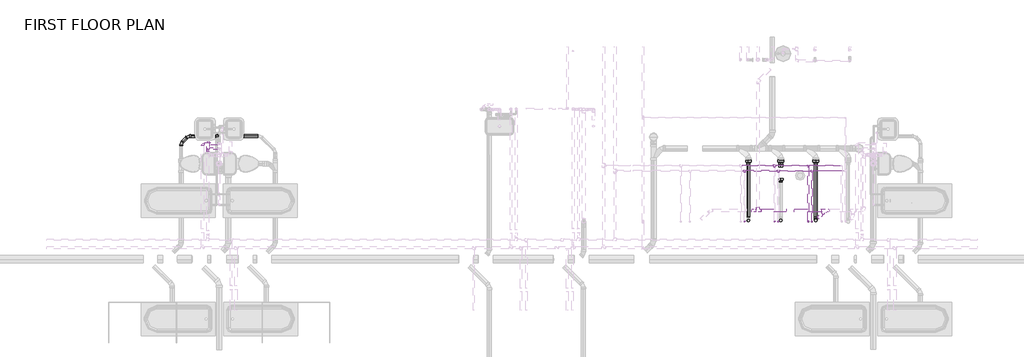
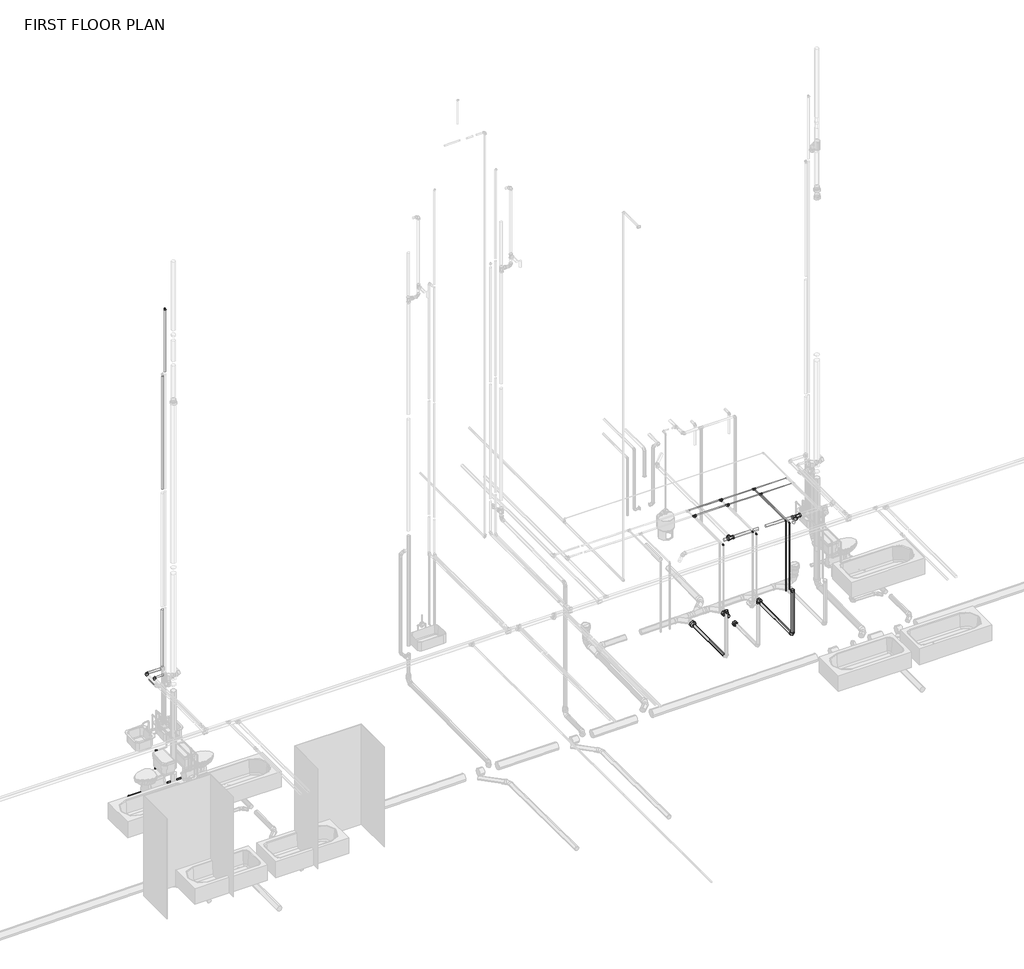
# One storey, part 14 of 29: 36 pipe fittings, 28 pipe segments.
"""IFC4 building model written with IfcOpenShell, lengths in millimetres."""

from ifc_helpers import new_model, si_unit, point, frame, frame_2d, origin, place, context, project, spatial, circle_curve, trimmed, segment, composite_curve, outline, extrude, transform, mapped, element, save
from components import bend_pvc_sch_40_dwv_standard_d8f6ba7d, bend_pvc_sch_40_dwv_standard_32fa4374, bend_pvc_sch_40_dwv_standard_d9c3dac7, bend_pvc_sch_40_dwv_standard_f4bd1dea, coupling_pvc_sch_40_dwv_standard_35c33311, pipe_elbow_copper_k_557be1fc, pipe_elbow_copper_k_764eecca, pipe_elbow_copper_k_aad62f2d, pipe_tee_copper_k_ee363fbf, pipe_tee_copper_k_feafe2f1, pipe_transition_copper_k_859ff352, pipe_transition_copper_k_b4f16853, pipe_transition_copper_k_b63fd5dd, pipe_transition_copper_k_6d118978, reducer_pvc_sch_40_dwv_standard_b23fa098, reducer_pvc_sch_40_dwv_standard_f8e5081b, reducer_pvc_sch_40_dwv_standard_f2b73945, reducer_pvc_sch_40_dwv_standard_75c2b4cb, reducer_pvc_sch_40_dwv_standard_82007f57, tee_sanitary_pvc_sch_40_dwv_standard_7b7ecc20, tee_sanitary_pvc_sch_40_dwv_standard_d4702521

model = new_model("IFC4")

# Units and contexts
model_context = context("Model", 3, world=origin())
ifc_project = project(units=[si_unit("LENGTHUNIT", "METRE", prefix="MILLI")], contexts=[model_context])

# Site, building, storey
site = spatial("IfcSite", under=ifc_project)
building = spatial("IfcBuilding", under=site)
storey = spatial("IfcBuildingStorey", under=building, Name="FIRST FLOOR PLAN", Elevation=0.0)

# Pipe fittings
placement = place(None, origin())
bend_pvc_sch_40_dwv_standard_shape = bend_pvc_sch_40_dwv_standard_d8f6ba7d(model_context)
element("IfcPipeFitting", 1, ObjectType="Bend - PVC - Sch 40 - DWV : Standard", at=placement, inside=storey, context=model_context, shape_type="MappedRepresentation", body=[
    mapped(bend_pvc_sch_40_dwv_standard_shape, transform((2072.2638539, 8305.4862894, -510.828984), x_axis=(-0.007495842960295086, 0.004298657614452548, -0.9999626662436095), y_axis=(0.9999719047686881, 7.707464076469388e-05, -0.007495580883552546), z_axis=(4.4850827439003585e-05, -0.9999907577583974, -0.0042991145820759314))),
])
bend_pvc_sch_40_dwv_standard_2_shape = bend_pvc_sch_40_dwv_standard_32fa4374(model_context)
element("IfcPipeFitting", 2, ObjectType="Bend - PVC - Sch 40 - DWV : Standard", at=placement, inside=storey, context=model_context, shape_type="MappedRepresentation", body=[
    mapped(bend_pvc_sch_40_dwv_standard_2_shape, transform((15631.4487178, 6391.7502043, -369.695797), x_axis=(-4.307089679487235e-05, 4.2748559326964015e-05, -0.9999999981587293), y_axis=(2.689705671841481e-08, 0.99999999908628, 4.2748558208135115e-05), z_axis=(0.9999999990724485, -2.5055837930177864e-08, -4.307089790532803e-05))),
])
bend_pvc_sch_40_dwv_standard_3_shape = bend_pvc_sch_40_dwv_standard_d9c3dac7(model_context)
element("IfcPipeFitting", 3, ObjectType="Bend - PVC - Sch 40 - DWV : Standard", at=placement, inside=storey, context=model_context, shape_type="MappedRepresentation", body=[
    mapped(bend_pvc_sch_40_dwv_standard_3_shape, transform((1250.8963953, 8146.4643638, -521.9379167), x_axis=(-0.7069835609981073, -0.7069835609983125, -0.018667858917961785), y_axis=(0.7070492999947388, -0.7071532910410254, 0.0039383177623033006), z_axis=(-0.015985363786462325, -0.010414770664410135, 0.9998179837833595))),
])
bend_pvc_sch_40_dwv_standard_4_shape = bend_pvc_sch_40_dwv_standard_f4bd1dea(model_context)
element("IfcPipeFitting", 4, ObjectType="Bend - PVC - Sch 40 - DWV : Standard", at=placement, inside=storey, context=model_context, shape_type="MappedRepresentation", body=[
    mapped(bend_pvc_sch_40_dwv_standard_4_shape, transform((1409.9183209, 8305.4862894, -517.7389522), x_axis=(-0.9999455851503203, 0.0, -0.01043200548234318), y_axis=(0.00016659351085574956, -0.9998724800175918, -0.015968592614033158), z_axis=(-0.010430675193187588, -0.015969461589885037, 0.9998180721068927))),
])
coupling_pvc_sch_40_dwv_standard_shape = coupling_pvc_sch_40_dwv_standard_35c33311(model_context)
element("IfcPipeFitting", 5, ObjectType="Coupling - PVC - Sch 40 - DWV : Standard", at=placement, inside=storey, context=model_context, shape_type="MappedRepresentation", body=[
    mapped(coupling_pvc_sch_40_dwv_standard_shape, transform((14840.7074693, 6391.7681529, 709.0818814), x_axis=(-3.7724282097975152e-06, -4.720714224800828e-05, 0.9999999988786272), y_axis=(0.9999999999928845, -2.7131483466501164e-09, 3.7724280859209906e-06), z_axis=(2.535062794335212e-09, 0.999999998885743, 4.7207142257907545e-05))),
])
element("IfcPipeFitting", 6, ObjectType="Coupling - PVC - Sch 40 - DWV : Standard", at=placement, inside=storey, context=model_context, shape_type="MappedRepresentation", body=[
    mapped(coupling_pvc_sch_40_dwv_standard_shape, transform((15631.4672769, 6391.6983924, 709.0856937), x_axis=(-3.795116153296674e-06, -4.7291518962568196e-05, 0.9999999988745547), y_axis=(0.9999999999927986, -2.714284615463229e-09, 3.7951160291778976e-06), z_axis=(2.5348078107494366e-09, 0.9999999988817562, 4.729151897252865e-05))),
])
pipe_elbow_copper_k_shape = pipe_elbow_copper_k_557be1fc(model_context)
element("IfcPipeFitting", 7, ObjectType="Pipe Elbow : Copper- K", at=placement, inside=storey, context=model_context, shape_type="MappedRepresentation", body=[
    mapped(pipe_elbow_copper_k_shape, transform((1858.4146104, 8021.1606631, 2413.0), x_axis=(-1.0, 0.0, 0.0), y_axis=(0.0, -1.0, 0.0), z_axis=(0.0, 0.0, 1.0))),
])
pipe_elbow_copper_k_2_shape = pipe_elbow_copper_k_764eecca(model_context)
element("IfcPipeFitting", 8, ObjectType="Pipe Elbow : Copper- K", at=placement, inside=storey, context=model_context, shape_type="MappedRepresentation", body=[
    mapped(pipe_elbow_copper_k_2_shape, transform((1739.2624243, 8129.4757881, 2490.6882812), x_axis=(-1.0, 0.0, 0.0), y_axis=(0.0, -1.0, 0.0), z_axis=(0.0, 0.0, 1.0))),
])
pipe_elbow_copper_k_3_shape = pipe_elbow_copper_k_aad62f2d(model_context)
element("IfcPipeFitting", 9, ObjectType="Pipe Elbow : Copper- K", at=placement, inside=storey, context=model_context, shape_type="MappedRepresentation", body=[
    mapped(pipe_elbow_copper_k_3_shape, transform((14698.9084875, 6363.4137881, 2490.6882812), x_axis=(0.0, 0.0, 1.0), y_axis=(0.0, 1.0, 0.0), z_axis=(-1.0, 0.0, 0.0))),
])
element("IfcPipeFitting", 10, ObjectType="Pipe Elbow : Copper- K", at=placement, inside=storey, context=model_context, shape_type="MappedRepresentation", body=[
    mapped(pipe_elbow_copper_k_3_shape, transform((15461.1084875, 6363.4137881, 2490.6882812), x_axis=(0.0, 0.0, 1.0), y_axis=(0.0, 1.0, 0.0), z_axis=(-1.0, 0.0, 0.0))),
])
element("IfcPipeFitting", 11, ObjectType="Pipe Elbow : Copper- K", at=placement, inside=storey, context=model_context, shape_type="MappedRepresentation", body=[
    mapped(pipe_elbow_copper_k_3_shape, transform((14020.3084875, 6363.4137881, 2413.0), x_axis=(0.0, 0.0, 1.0), y_axis=(0.0, 1.0, 0.0), z_axis=(-1.0, 0.0, 0.0))),
])
element("IfcPipeFitting", 12, ObjectType="Pipe Elbow : Copper- K", at=placement, inside=storey, context=model_context, shape_type="MappedRepresentation", body=[
    mapped(pipe_elbow_copper_k_3_shape, transform((15544.7084875, 6363.4137881, 2413.0), x_axis=(0.0, 0.0, 1.0), y_axis=(0.0, 1.0, 0.0), z_axis=(-1.0, 0.0, 0.0))),
])
element("IfcPipeFitting", 13, ObjectType="Pipe Elbow : Copper- K", at=placement, inside=storey, context=model_context, shape_type="MappedRepresentation", body=[
    mapped(pipe_elbow_copper_k_3_shape, transform((14782.5084875, 6363.4137881, 2413.0), x_axis=(0.0, 0.0, 1.0), y_axis=(0.0, 1.0, 0.0), z_axis=(-1.0, 0.0, 0.0))),
])
element("IfcPipeFitting", 14, ObjectType="Pipe Elbow : Copper- K", at=placement, inside=storey, context=model_context, shape_type="MappedRepresentation", body=[
    mapped(pipe_elbow_copper_k_3_shape, transform((2118.3084875, 8021.1606631, 11328.4), x_axis=(0.0, 0.0, 1.0), y_axis=(-1.0, 0.0, 0.0), z_axis=(0.0, -1.0, 0.0))),
])
pipe_tee_copper_k_shape = pipe_tee_copper_k_ee363fbf(model_context)
element("IfcPipeFitting", 15, ObjectType="Pipe Tee : Copper- K", at=placement, inside=storey, context=model_context, shape_type="MappedRepresentation", body=[
    mapped(pipe_tee_copper_k_shape, transform((15461.1084875, 7639.882496, 2490.6882812), x_axis=(1.0, 0.0, 0.0), y_axis=(0.0, 1.0, 0.0), z_axis=(0.0, 0.0, 1.0))),
])
element("IfcPipeFitting", 16, ObjectType="Pipe Tee : Copper- K", at=placement, inside=storey, context=model_context, shape_type="MappedRepresentation", body=[
    mapped(pipe_tee_copper_k_shape, transform((15544.7084875, 7519.1499538, 2413.0), x_axis=(1.0, 0.0, 0.0), y_axis=(0.0, 1.0, 0.0), z_axis=(0.0, 0.0, 1.0))),
])
pipe_tee_copper_k_2_shape = pipe_tee_copper_k_feafe2f1(model_context)
element("IfcPipeFitting", 17, ObjectType="Pipe Tee : Copper- K", at=placement, inside=storey, context=model_context, shape_type="MappedRepresentation", body=[
    mapped(pipe_tee_copper_k_2_shape, transform((14698.9084875, 7639.882496, 2490.6882812), x_axis=(1.0, 0.0, 0.0), y_axis=(0.0, 1.0, 0.0), z_axis=(0.0, 0.0, 1.0))),
])
element("IfcPipeFitting", 18, ObjectType="Pipe Tee : Copper- K", at=placement, inside=storey, context=model_context, shape_type="MappedRepresentation", body=[
    mapped(pipe_tee_copper_k_2_shape, transform((14020.3084875, 7519.1499538, 2413.0), x_axis=(1.0, 0.0, 0.0), y_axis=(0.0, 1.0, 0.0), z_axis=(0.0, 0.0, 1.0))),
])
element("IfcPipeFitting", 19, ObjectType="Pipe Tee : Copper- K", at=placement, inside=storey, context=model_context, shape_type="MappedRepresentation", body=[
    mapped(pipe_tee_copper_k_2_shape, transform((14782.5084875, 7519.1499538, 2413.0), x_axis=(1.0, 0.0, 0.0), y_axis=(0.0, 1.0, 0.0), z_axis=(0.0, 0.0, 1.0))),
])
pipe_transition_copper_k_shape = pipe_transition_copper_k_859ff352(model_context)
element("IfcPipeFitting", 20, ObjectType="Pipe Transition : Copper- K", at=placement, inside=storey, context=model_context, shape_type="MappedRepresentation", body=[
    mapped(pipe_transition_copper_k_shape, transform((15488.0959875, 7639.882496, 2490.6882812), x_axis=(1.0, 0.0, 0.0), y_axis=(0.0, 1.0, 0.0), z_axis=(0.0, 0.0, 1.0))),
])
element("IfcPipeFitting", 21, ObjectType="Pipe Transition : Copper- K", at=placement, inside=storey, context=model_context, shape_type="MappedRepresentation", body=[
    mapped(pipe_transition_copper_k_shape, transform((15461.1084875, 7612.894996, 2490.6882812), x_axis=(0.0, -1.0, 0.0), y_axis=(1.0, 0.0, 0.0), z_axis=(0.0, 0.0, 1.0))),
])
element("IfcPipeFitting", 22, ObjectType="Pipe Transition : Copper- K", at=placement, inside=storey, context=model_context, shape_type="MappedRepresentation", body=[
    mapped(pipe_transition_copper_k_shape, transform((15571.6959875, 7519.1499538, 2413.0), x_axis=(1.0, 0.0, 0.0), y_axis=(0.0, 1.0, 0.0), z_axis=(0.0, 0.0, 1.0))),
])
element("IfcPipeFitting", 23, ObjectType="Pipe Transition : Copper- K", at=placement, inside=storey, context=model_context, shape_type="MappedRepresentation", body=[
    mapped(pipe_transition_copper_k_shape, transform((15544.7084875, 7492.1624538, 2413.0), x_axis=(0.0, -1.0, 0.0), y_axis=(1.0, 0.0, 0.0), z_axis=(0.0, 0.0, 1.0))),
])
pipe_transition_copper_k_2_shape = pipe_transition_copper_k_b4f16853(model_context)
element("IfcPipeFitting", 24, ObjectType="Pipe Transition : Copper- K", at=placement, inside=storey, context=model_context, shape_type="MappedRepresentation", body=[
    mapped(pipe_transition_copper_k_2_shape, transform((14729.0709875, 7639.882496, 2490.6882812), x_axis=(1.0, 0.0, 0.0), y_axis=(0.0, 1.0, 0.0), z_axis=(0.0, 0.0, 1.0))),
])
element("IfcPipeFitting", 25, ObjectType="Pipe Transition : Copper- K", at=placement, inside=storey, context=model_context, shape_type="MappedRepresentation", body=[
    mapped(pipe_transition_copper_k_2_shape, transform((14812.6709875, 7519.1499538, 2413.0), x_axis=(1.0, 0.0, 0.0), y_axis=(0.0, 1.0, 0.0), z_axis=(0.0, 0.0, 1.0))),
])
pipe_transition_copper_k_3_shape = pipe_transition_copper_k_b63fd5dd(model_context)
element("IfcPipeFitting", 26, ObjectType="Pipe Transition : Copper- K", at=placement, inside=storey, context=model_context, shape_type="MappedRepresentation", body=[
    mapped(pipe_transition_copper_k_3_shape, transform((14698.9084875, 7609.719996, 2490.6882812), x_axis=(0.0, -1.0, 0.0), y_axis=(1.0, 0.0, 0.0), z_axis=(0.0, 0.0, 1.0))),
])
element("IfcPipeFitting", 27, ObjectType="Pipe Transition : Copper- K", at=placement, inside=storey, context=model_context, shape_type="MappedRepresentation", body=[
    mapped(pipe_transition_copper_k_3_shape, transform((14020.3084875, 7488.9874538, 2413.0), x_axis=(0.0, -1.0, 0.0), y_axis=(1.0, 0.0, 0.0), z_axis=(0.0, 0.0, 1.0))),
])
element("IfcPipeFitting", 28, ObjectType="Pipe Transition : Copper- K", at=placement, inside=storey, context=model_context, shape_type="MappedRepresentation", body=[
    mapped(pipe_transition_copper_k_3_shape, transform((14782.5084875, 7488.9874538, 2413.0), x_axis=(0.0, -1.0, 0.0), y_axis=(1.0, 0.0, 0.0), z_axis=(0.0, 0.0, 1.0))),
])
pipe_transition_copper_k_4_shape = pipe_transition_copper_k_6d118978(model_context)
element("IfcPipeFitting", 29, ObjectType="Pipe Transition : Copper- K", at=placement, inside=storey, context=model_context, shape_type="MappedRepresentation", body=[
    mapped(pipe_transition_copper_k_4_shape, transform((2118.3084875, 8021.1606631, 11300.61875), x_axis=(0.0, 0.0, 1.0), y_axis=(0.0, -1.0, 0.0), z_axis=(1.0, 0.0, 0.0))),
])
reducer_pvc_sch_40_dwv_standard_shape = reducer_pvc_sch_40_dwv_standard_b23fa098(model_context)
element("IfcPipeFitting", 30, ObjectType="Reducer - PVC - Sch 40 - DWV : Standard", at=placement, inside=storey, context=model_context, shape_type="MappedRepresentation", body=[
    mapped(reducer_pvc_sch_40_dwv_standard_shape, transform((14106.8736698, 6391.7698624, 709.0782825), x_axis=(-3.7444247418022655e-06, -4.717245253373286e-05, 0.9999999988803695), y_axis=(0.9999999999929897, -2.711745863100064e-09, 3.7444246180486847e-06), z_axis=(2.535112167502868e-09, 0.9999999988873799, 4.717245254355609e-05))),
])
reducer_pvc_sch_40_dwv_standard_2_shape = reducer_pvc_sch_40_dwv_standard_f8e5081b(model_context)
element("IfcPipeFitting", 31, ObjectType="Reducer - PVC - Sch 40 - DWV : Standard", at=placement, inside=storey, context=model_context, shape_type="MappedRepresentation", body=[
    mapped(reducer_pvc_sch_40_dwv_standard_2_shape, transform((14840.6889125, 7344.222429, -377.8393737), x_axis=(0.0, -0.9999987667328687, 0.001570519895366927), y_axis=(0.008217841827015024, -0.001570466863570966, -0.9999649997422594), z_axis=(0.9999662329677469, 1.290628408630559e-05, 0.008217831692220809))),
])
reducer_pvc_sch_40_dwv_standard_3_shape = reducer_pvc_sch_40_dwv_standard_f2b73945(model_context)
element("IfcPipeFitting", 32, ObjectType="Reducer - PVC - Sch 40 - DWV : Standard", at=placement, inside=storey, context=model_context, shape_type="MappedRepresentation", body=[
    mapped(reducer_pvc_sch_40_dwv_standard_3_shape, transform((14840.6887347, 7764.8251101, -378.4920541), x_axis=(-1.1372606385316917e-06, -0.999998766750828, 0.0015705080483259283), y_axis=(0.9999457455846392, 1.522218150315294e-05, 0.010416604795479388), z_axis=(-0.010416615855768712, 0.001570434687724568, 0.9999445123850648))),
])
reducer_pvc_sch_40_dwv_standard_4_shape = reducer_pvc_sch_40_dwv_standard_75c2b4cb(model_context)
element("IfcPipeFitting", 33, ObjectType="Reducer - PVC - Sch 40 - DWV : Standard", at=placement, inside=storey, context=model_context, shape_type="MappedRepresentation", body=[
    mapped(reducer_pvc_sch_40_dwv_standard_4_shape, transform((15631.4487356, 7764.8279102, -370.4966945), x_axis=(3.072335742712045e-07, -0.9999998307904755, 0.0005817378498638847), y_axis=(0.010416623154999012, -0.0005817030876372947, -0.9999455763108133), z_axis=(0.9999457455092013, 6.366960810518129e-06, 0.010416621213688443))),
])
reducer_pvc_sch_40_dwv_standard_5_shape = reducer_pvc_sch_40_dwv_standard_82007f57(model_context)
element("IfcPipeFitting", 34, ObjectType="Reducer - PVC - Sch 40 - DWV : Standard", at=placement, inside=storey, context=model_context, shape_type="MappedRepresentation", body=[
    mapped(reducer_pvc_sch_40_dwv_standard_5_shape, transform((14106.8550448, 7764.8223138, -386.1289152), x_axis=(-1.1796395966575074e-06, -0.9999987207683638, 0.0015995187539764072), y_axis=(0.010416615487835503, -0.001599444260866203, -0.9999444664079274), z_axis=(0.9999457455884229, 1.548199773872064e-05, 0.010416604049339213))),
])
tee_sanitary_pvc_sch_40_dwv_standard_shape = tee_sanitary_pvc_sch_40_dwv_standard_7b7ecc20(model_context)
element("IfcPipeFitting", 35, ObjectType="Tee Sanitary - PVC - Sch 40 - DWV : Standard", at=placement, inside=storey, context=model_context, shape_type="MappedRepresentation", body=[
    mapped(tee_sanitary_pvc_sch_40_dwv_standard_shape, transform((14321.5528476, 6617.4137881, 2311.4), x_axis=(-1.0, 0.0, 0.0), y_axis=(0.0, -1.0, 0.0), z_axis=(0.0, 0.0, 1.0))),
])
tee_sanitary_pvc_sch_40_dwv_standard_2_shape = tee_sanitary_pvc_sch_40_dwv_standard_d4702521(model_context)
element("IfcPipeFitting", 36, ObjectType="Tee Sanitary - PVC - Sch 40 - DWV : Standard", at=placement, inside=storey, context=model_context, shape_type="MappedRepresentation", body=[
    mapped(tee_sanitary_pvc_sch_40_dwv_standard_2_shape, transform((15857.3100774, 6617.4137881, 2311.3999994), x_axis=(-1.0, 0.0, 0.0), y_axis=(0.0, 1.0, 0.0), z_axis=(0.0, 0.0, -1.0))),
])

# Pipe segments
element("IfcPipeSegment", 37, ObjectType="Cast Iron - VENT", at=placement, inside=storey, context=model_context, shape_type="SweptSolid", body=[
    extrude(outline(composite_curve([segment(trimmed(circle_curve(frame_2d((0.0, 30.1625)), 30.1625), [point((30.1624999, 30.1625))], [point((0.0, 0.0))], False, "CARTESIAN"), True, "CONTINUOUS"), segment(trimmed(circle_curve(frame_2d((0.0, 30.1625)), 30.1625), [point((0.0, 0.0))], [point((-30.1625, 30.1625))], False, "CARTESIAN"), True, "CONTINUOUS"), segment(trimmed(circle_curve(frame_2d((0.0, 30.1625)), 30.1625), [point((-30.1625, 30.1625))], [point((0.0, 60.325))], False, "CARTESIAN"), True, "CONTINUOUS"), segment(trimmed(circle_curve(frame_2d((0.0, 30.1625)), 30.1625), [point((0.0, 60.325))], [point((30.1624999, 30.1625))], False, "CARTESIAN"), True, "CONTINUOUS")], self_intersect=False)), frame((15686.5286675, 6446.6323781, 2341.5624994), z_axis=(0.7071067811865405, 0.7071067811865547, 0.0), x_axis=(0.7071067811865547, -0.7071067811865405, 0.0)), (0.0, 0.0, 1.0), 139.6266821),
])
element("IfcPipeSegment", 38, ObjectType="Cast Iron - VENT", at=placement, inside=storey, context=model_context, shape_type="SweptSolid", body=[
    extrude(outline(composite_curve([segment(trimmed(circle_curve(frame_2d((6617.4137881, 2311.4)), 30.1625), [point((6647.5762881, 2311.4))], [point((6617.4137881, 2281.2375))], False, "CARTESIAN"), True, "CONTINUOUS"), segment(trimmed(circle_curve(frame_2d((6617.4137881, 2311.4)), 30.1625), [point((6617.4137881, 2281.2375))], [point((6587.2512881, 2311.4))], False, "CARTESIAN"), True, "CONTINUOUS"), segment(trimmed(circle_curve(frame_2d((6617.4137881, 2311.4)), 30.1625), [point((6587.2512881, 2311.4))], [point((6617.4137881, 2341.5625))], False, "CARTESIAN"), True, "CONTINUOUS"), segment(trimmed(circle_curve(frame_2d((6617.4137881, 2311.4)), 30.1625), [point((6617.4137881, 2341.5625))], [point((6647.5762881, 2311.4))], False, "CARTESIAN"), True, "CONTINUOUS")], self_intersect=False)), frame((14184.7222928, 0.0, 0.0), z_axis=(1.0, 0.0, 0.0), x_axis=(0.0, 1.0, 0.0)), (0.0, 0.0, 1.0), 82.8555549),
])
element("IfcPipeSegment", 39, ObjectType="Cast Iron - VENT", at=placement, inside=storey, context=model_context, shape_type="SweptSolid", body=[
    extrude(outline(composite_curve([segment(trimmed(circle_curve(frame_2d((6617.4137881, 2311.4)), 30.1625), [point((6587.2512881, 2311.4))], [point((6617.4137881, 2341.5625))], False, "CARTESIAN"), True, "CONTINUOUS"), segment(trimmed(circle_curve(frame_2d((6617.4137881, 2311.4)), 30.1625), [point((6617.4137881, 2341.5625))], [point((6647.5762881, 2311.4))], False, "CARTESIAN"), True, "CONTINUOUS"), segment(trimmed(circle_curve(frame_2d((6617.4137881, 2311.4)), 30.1625), [point((6647.5762881, 2311.4))], [point((6617.4137881, 2281.2375))], False, "CARTESIAN"), True, "CONTINUOUS"), segment(trimmed(circle_curve(frame_2d((6617.4137881, 2311.4)), 30.1625), [point((6617.4137881, 2281.2375))], [point((6587.2512881, 2311.4))], False, "CARTESIAN"), True, "CONTINUOUS")], self_intersect=False)), frame((14399.3530476, 0.0, 0.0), z_axis=(1.0, 0.0, 0.0), x_axis=(0.0, 1.0, 0.0)), (0.0, 0.0, 1.0), 565.3524398),
])
element("IfcPipeSegment", 40, ObjectType="Cast Iron - VENT", at=placement, inside=storey, context=model_context, shape_type="SweptSolid", body=[
    extrude(outline(composite_curve([segment(trimmed(circle_curve(frame_2d((6617.4137881, 2311.3998935)), 30.1625), [point((6587.2512881, 2311.3998935))], [point((6617.4137881, 2341.5623935))], False, "CARTESIAN"), True, "CONTINUOUS"), segment(trimmed(circle_curve(frame_2d((6617.4137881, 2311.3998935)), 30.1625), [point((6617.4137881, 2341.5623935))], [point((6647.5762881, 2311.3998935))], False, "CARTESIAN"), True, "CONTINUOUS"), segment(trimmed(circle_curve(frame_2d((6617.4137881, 2311.3998935)), 30.1625), [point((6647.5762881, 2311.3998935))], [point((6617.4137881, 2281.2373935))], False, "CARTESIAN"), True, "CONTINUOUS"), segment(trimmed(circle_curve(frame_2d((6617.4137881, 2311.3998935)), 30.1625), [point((6617.4137881, 2281.2373935))], [point((6587.2512881, 2311.3998935))], False, "CARTESIAN"), True, "CONTINUOUS")], self_intersect=False)), frame((15144.4003916, 0.0, 0.0), z_axis=(1.0, 0.0, 0.0), x_axis=(0.0, 1.0, 0.0)), (0.0, 0.0, 1.0), 611.0149818),
])
element("IfcPipeSegment", 41, ObjectType="Copper", at=placement, inside=storey, context=model_context, shape_type="SweptSolid", body=[
    extrude(outline(composite_curve([segment(trimmed(circle_curve(frame_2d((8021.1606631, 2413.0)), 20.6375), [point((8000.5231631, 2413.0))], [point((8021.1606631, 2433.6375))], False, "CARTESIAN"), True, "CONTINUOUS"), segment(trimmed(circle_curve(frame_2d((8021.1606631, 2413.0)), 20.6375), [point((8021.1606631, 2433.6375))], [point((8041.7981631, 2413.0))], False, "CARTESIAN"), True, "CONTINUOUS"), segment(trimmed(circle_curve(frame_2d((8021.1606631, 2413.0)), 20.6375), [point((8041.7981631, 2413.0))], [point((8021.1606631, 2392.3625))], False, "CARTESIAN"), True, "CONTINUOUS"), segment(trimmed(circle_curve(frame_2d((8021.1606631, 2413.0)), 20.6375), [point((8021.1606631, 2392.3625))], [point((8000.5231631, 2413.0))], False, "CARTESIAN"), True, "CONTINUOUS")], self_intersect=False)), frame((1888.5771104, 0.0, 0.0), z_axis=(1.0, 0.0, 0.0), x_axis=(0.0, 1.0, 0.0)), (0.0, 0.0, 1.0), 193.218877),
])
element("IfcPipeSegment", 42, ObjectType="Copper", at=placement, inside=storey, context=model_context, shape_type="SweptSolid", body=[
    extrude(outline(composite_curve([segment(trimmed(circle_curve(frame_2d((8129.4757881, 2490.6882812)), 26.9875), [point((8102.4882881, 2490.6882812))], [point((8129.4757881, 2517.6757812))], False, "CARTESIAN"), True, "CONTINUOUS"), segment(trimmed(circle_curve(frame_2d((8129.4757881, 2490.6882812)), 26.9875), [point((8129.4757881, 2517.6757812))], [point((8156.4632881, 2490.6882812))], False, "CARTESIAN"), True, "CONTINUOUS"), segment(trimmed(circle_curve(frame_2d((8129.4757881, 2490.6882812)), 26.9875), [point((8156.4632881, 2490.6882812))], [point((8129.4757881, 2463.7007812))], False, "CARTESIAN"), True, "CONTINUOUS"), segment(trimmed(circle_curve(frame_2d((8129.4757881, 2490.6882812)), 26.9875), [point((8129.4757881, 2463.7007812))], [point((8102.4882881, 2490.6882812))], False, "CARTESIAN"), True, "CONTINUOUS")], self_intersect=False)), frame((1775.7749243, 0.0, 0.0), z_axis=(1.0, 0.0, 0.0), x_axis=(0.0, 1.0, 0.0)), (0.0, 0.0, 1.0), 302.8460632),
])
element("IfcPipeSegment", 43, ObjectType="Copper", at=placement, inside=storey, context=model_context, shape_type="SweptSolid", body=[
    extrude(outline(composite_curve([segment(trimmed(circle_curve(frame_2d((2121.4834875, 8129.4757881)), 17.4625), [point((2104.0209875, 8129.4757881))], [point((2121.4834875, 8146.9382881))], False, "CARTESIAN"), True, "CONTINUOUS"), segment(trimmed(circle_curve(frame_2d((2121.4834875, 8129.4757881)), 17.4625), [point((2121.4834875, 8146.9382881))], [point((2138.9459875, 8129.4757881))], False, "CARTESIAN"), True, "CONTINUOUS"), segment(trimmed(circle_curve(frame_2d((2121.4834875, 8129.4757881)), 17.4625), [point((2138.9459875, 8129.4757881))], [point((2121.4834875, 8112.0132881))], False, "CARTESIAN"), True, "CONTINUOUS"), segment(trimmed(circle_curve(frame_2d((2121.4834875, 8129.4757881)), 17.4625), [point((2121.4834875, 8112.0132881))], [point((2104.0209875, 8129.4757881))], False, "CARTESIAN"), True, "CONTINUOUS")], self_intersect=False)), frame((0.0, 0.0, 6863.55625), z_axis=(0.0, 0.0, 1.0), x_axis=(1.0, 0.0, 0.0)), (0.0, 0.0, 1.0), 2755.9),
])
element("IfcPipeSegment", 44, ObjectType="Copper", at=placement, inside=storey, context=model_context, shape_type="SweptSolid", body=[
    extrude(outline(composite_curve([segment(trimmed(circle_curve(frame_2d((2118.3084875, 8021.1606631)), 20.6375), [point((2097.6709875, 8021.1606631))], [point((2118.3084875, 8041.7981631))], False, "CARTESIAN"), True, "CONTINUOUS"), segment(trimmed(circle_curve(frame_2d((2118.3084875, 8021.1606631)), 20.6375), [point((2118.3084875, 8041.7981631))], [point((2138.9459875, 8021.1606631))], False, "CARTESIAN"), True, "CONTINUOUS"), segment(trimmed(circle_curve(frame_2d((2118.3084875, 8021.1606631)), 20.6375), [point((2138.9459875, 8021.1606631))], [point((2118.3084875, 8000.5231631))], False, "CARTESIAN"), True, "CONTINUOUS"), segment(trimmed(circle_curve(frame_2d((2118.3084875, 8021.1606631)), 20.6375), [point((2118.3084875, 8000.5231631))], [point((2097.6709875, 8021.1606631))], False, "CARTESIAN"), True, "CONTINUOUS")], self_intersect=False)), frame((0.0, 0.0, 9790.1125), z_axis=(0.0, 0.0, 1.0), x_axis=(1.0, 0.0, 0.0)), (0.0, 0.0, 1.0), 1510.50625),
])
element("IfcPipeSegment", 45, ObjectType="Copper", at=placement, inside=storey, context=model_context, shape_type="SweptSolid", body=[
    extrude(outline(composite_curve([segment(trimmed(circle_curve(frame_2d((2413.0, 15544.7084875)), 7.9375), [point((2413.0, 15552.6459875))], [point((2420.9375, 15544.7084875))], False, "CARTESIAN"), True, "CONTINUOUS"), segment(trimmed(circle_curve(frame_2d((2413.0, 15544.7084875)), 7.9375), [point((2420.9375, 15544.7084875))], [point((2413.0, 15536.7709875))], False, "CARTESIAN"), True, "CONTINUOUS"), segment(trimmed(circle_curve(frame_2d((2413.0, 15544.7084875)), 7.9375), [point((2413.0, 15536.7709875))], [point((2405.0625, 15544.7084875))], False, "CARTESIAN"), True, "CONTINUOUS"), segment(trimmed(circle_curve(frame_2d((2413.0, 15544.7084875)), 7.9375), [point((2405.0625, 15544.7084875))], [point((2413.0, 15552.6459875))], False, "CARTESIAN"), True, "CONTINUOUS")], self_intersect=False)), frame((0.0, 6380.8762881, 0.0), z_axis=(0.0, 1.0, 0.0), x_axis=(0.0, 0.0, 1.0)), (0.0, 0.0, 1.0), 1105.7299158),
])
element("IfcPipeSegment", 46, ObjectType="Copper", at=placement, inside=storey, context=model_context, shape_type="SweptSolid", body=[
    extrude(outline(composite_curve([segment(trimmed(circle_curve(frame_2d((2490.6882813, 15461.1084875)), 7.9375), [point((2490.6882813, 15469.0459875))], [point((2498.6257813, 15461.1084875))], False, "CARTESIAN"), True, "CONTINUOUS"), segment(trimmed(circle_curve(frame_2d((2490.6882813, 15461.1084875)), 7.9375), [point((2498.6257813, 15461.1084875))], [point((2490.6882813, 15453.1709875))], False, "CARTESIAN"), True, "CONTINUOUS"), segment(trimmed(circle_curve(frame_2d((2490.6882813, 15461.1084875)), 7.9375), [point((2490.6882813, 15453.1709875))], [point((2482.7507813, 15461.1084875))], False, "CARTESIAN"), True, "CONTINUOUS"), segment(trimmed(circle_curve(frame_2d((2490.6882813, 15461.1084875)), 7.9375), [point((2482.7507813, 15461.1084875))], [point((2490.6882813, 15469.0459875))], False, "CARTESIAN"), True, "CONTINUOUS")], self_intersect=False)), frame((0.0, 6380.8762881, 0.0), z_axis=(0.0, 1.0, 0.0), x_axis=(0.0, 0.0, 1.0)), (0.0, 0.0, 1.0), 1226.462458),
])
element("IfcPipeSegment", 47, ObjectType="Copper", at=placement, inside=storey, context=model_context, shape_type="SweptSolid", body=[
    extrude(outline(composite_curve([segment(trimmed(circle_curve(frame_2d((15461.1084875, 6363.4137881)), 7.9375), [point((15469.0459875, 6363.4137881))], [point((15461.1084875, 6355.4762881))], False, "CARTESIAN"), True, "CONTINUOUS"), segment(trimmed(circle_curve(frame_2d((15461.1084875, 6363.4137881)), 7.9375), [point((15461.1084875, 6355.4762881))], [point((15453.1709875, 6363.4137881))], False, "CARTESIAN"), True, "CONTINUOUS"), segment(trimmed(circle_curve(frame_2d((15461.1084875, 6363.4137881)), 7.9375), [point((15453.1709875, 6363.4137881))], [point((15461.1084875, 6371.3512881))], False, "CARTESIAN"), True, "CONTINUOUS"), segment(trimmed(circle_curve(frame_2d((15461.1084875, 6363.4137881)), 7.9375), [point((15461.1084875, 6371.3512881))], [point((15469.0459875, 6363.4137881))], False, "CARTESIAN"), True, "CONTINUOUS")], self_intersect=False)), frame((0.0, 0.0, 788.8882812), z_axis=(0.0, 0.0, 1.0), x_axis=(1.0, 0.0, 0.0)), (0.0, 0.0, 1.0), 1684.3375),
])
element("IfcPipeSegment", 48, ObjectType="Copper", at=placement, inside=storey, context=model_context, shape_type="SweptSolid", body=[
    extrude(outline(composite_curve([segment(trimmed(circle_curve(frame_2d((15544.7084875, 6363.4137881)), 7.9375), [point((15552.6459875, 6363.4137881))], [point((15544.7084875, 6355.4762881))], False, "CARTESIAN"), True, "CONTINUOUS"), segment(trimmed(circle_curve(frame_2d((15544.7084875, 6363.4137881)), 7.9375), [point((15544.7084875, 6355.4762881))], [point((15536.7709875, 6363.4137881))], False, "CARTESIAN"), True, "CONTINUOUS"), segment(trimmed(circle_curve(frame_2d((15544.7084875, 6363.4137881)), 7.9375), [point((15536.7709875, 6363.4137881))], [point((15544.7084875, 6371.3512881))], False, "CARTESIAN"), True, "CONTINUOUS"), segment(trimmed(circle_curve(frame_2d((15544.7084875, 6363.4137881)), 7.9375), [point((15544.7084875, 6371.3512881))], [point((15552.6459875, 6363.4137881))], False, "CARTESIAN"), True, "CONTINUOUS")], self_intersect=False)), frame((0.0, 0.0, 788.8882812), z_axis=(0.0, 0.0, 1.0), x_axis=(1.0, 0.0, 0.0)), (0.0, 0.0, 1.0), 1606.6492188),
])
element("IfcPipeSegment", 49, ObjectType="Copper", at=placement, inside=storey, context=model_context, shape_type="SweptSolid", body=[
    extrude(outline(composite_curve([segment(trimmed(circle_curve(frame_2d((7639.882496, 2490.6882812)), 14.2875), [point((7654.169996, 2490.6882812))], [point((7639.882496, 2476.4007812))], False, "CARTESIAN"), True, "CONTINUOUS"), segment(trimmed(circle_curve(frame_2d((7639.882496, 2490.6882812)), 14.2875), [point((7639.882496, 2476.4007812))], [point((7625.594996, 2490.6882812))], False, "CARTESIAN"), True, "CONTINUOUS"), segment(trimmed(circle_curve(frame_2d((7639.882496, 2490.6882812)), 14.2875), [point((7625.594996, 2490.6882812))], [point((7639.882496, 2504.9757812))], False, "CARTESIAN"), True, "CONTINUOUS"), segment(trimmed(circle_curve(frame_2d((7639.882496, 2490.6882812)), 14.2875), [point((7639.882496, 2504.9757812))], [point((7654.169996, 2490.6882812))], False, "CARTESIAN"), True, "CONTINUOUS")], self_intersect=False)), frame((13966.8709875, 0.0, 0.0), z_axis=(1.0, 0.0, 0.0), x_axis=(0.0, 1.0, 0.0)), (0.0, 0.0, 1.0), 701.875),
])
element("IfcPipeSegment", 50, ObjectType="Copper", at=placement, inside=storey, context=model_context, shape_type="SweptSolid", body=[
    extrude(outline(composite_curve([segment(trimmed(circle_curve(frame_2d((7639.882496, 2490.6882812)), 11.1125), [point((7650.994996, 2490.6882812))], [point((7639.882496, 2479.5757812))], False, "CARTESIAN"), True, "CONTINUOUS"), segment(trimmed(circle_curve(frame_2d((7639.882496, 2490.6882812)), 11.1125), [point((7639.882496, 2479.5757812))], [point((7628.769996, 2490.6882812))], False, "CARTESIAN"), True, "CONTINUOUS"), segment(trimmed(circle_curve(frame_2d((7639.882496, 2490.6882812)), 11.1125), [point((7628.769996, 2490.6882812))], [point((7639.882496, 2501.8007812))], False, "CARTESIAN"), True, "CONTINUOUS"), segment(trimmed(circle_curve(frame_2d((7639.882496, 2490.6882812)), 11.1125), [point((7639.882496, 2501.8007812))], [point((7650.994996, 2490.6882812))], False, "CARTESIAN"), True, "CONTINUOUS")], self_intersect=False)), frame((14736.2147375, 0.0, 0.0), z_axis=(1.0, 0.0, 0.0), x_axis=(0.0, 1.0, 0.0)), (0.0, 0.0, 1.0), 697.90625),
])
element("IfcPipeSegment", 51, ObjectType="Copper", at=placement, inside=storey, context=model_context, shape_type="SweptSolid", body=[
    extrude(outline(composite_curve([segment(trimmed(circle_curve(frame_2d((7639.882496, 2490.6882812)), 7.9375), [point((7647.819996, 2490.6882812))], [point((7639.882496, 2482.7507812))], False, "CARTESIAN"), True, "CONTINUOUS"), segment(trimmed(circle_curve(frame_2d((7639.882496, 2490.6882812)), 7.9375), [point((7639.882496, 2482.7507812))], [point((7631.944996, 2490.6882812))], False, "CARTESIAN"), True, "CONTINUOUS"), segment(trimmed(circle_curve(frame_2d((7639.882496, 2490.6882812)), 7.9375), [point((7631.944996, 2490.6882812))], [point((7639.882496, 2498.6257812))], False, "CARTESIAN"), True, "CONTINUOUS"), segment(trimmed(circle_curve(frame_2d((7639.882496, 2490.6882812)), 7.9375), [point((7639.882496, 2498.6257812))], [point((7647.819996, 2490.6882812))], False, "CARTESIAN"), True, "CONTINUOUS")], self_intersect=False)), frame((15493.6522375, 0.0, 0.0), z_axis=(1.0, 0.0, 0.0), x_axis=(0.0, 1.0, 0.0)), (0.0, 0.0, 1.0), 712.19375),
])
element("IfcPipeSegment", 52, ObjectType="Copper", at=placement, inside=storey, context=model_context, shape_type="SweptSolid", body=[
    extrude(outline(composite_curve([segment(trimmed(circle_curve(frame_2d((7519.1499538, 2413.0)), 7.9375), [point((7527.0874538, 2413.0))], [point((7519.1499538, 2405.0625))], False, "CARTESIAN"), True, "CONTINUOUS"), segment(trimmed(circle_curve(frame_2d((7519.1499538, 2413.0)), 7.9375), [point((7519.1499538, 2405.0625))], [point((7511.2124538, 2413.0))], False, "CARTESIAN"), True, "CONTINUOUS"), segment(trimmed(circle_curve(frame_2d((7519.1499538, 2413.0)), 7.9375), [point((7511.2124538, 2413.0))], [point((7519.1499538, 2420.9375))], False, "CARTESIAN"), True, "CONTINUOUS"), segment(trimmed(circle_curve(frame_2d((7519.1499538, 2413.0)), 7.9375), [point((7519.1499538, 2420.9375))], [point((7527.0874538, 2413.0))], False, "CARTESIAN"), True, "CONTINUOUS")], self_intersect=False)), frame((15577.2522375, 0.0, 0.0), z_axis=(1.0, 0.0, 0.0), x_axis=(0.0, 1.0, 0.0)), (0.0, 0.0, 1.0), 705.84375),
])
element("IfcPipeSegment", 53, ObjectType="Copper", at=placement, inside=storey, context=model_context, shape_type="SweptSolid", body=[
    extrude(outline(composite_curve([segment(trimmed(circle_curve(frame_2d((7519.1499538, 2413.0)), 14.2875), [point((7533.4374538, 2413.0))], [point((7519.1499538, 2398.7125))], False, "CARTESIAN"), True, "CONTINUOUS"), segment(trimmed(circle_curve(frame_2d((7519.1499538, 2413.0)), 14.2875), [point((7519.1499538, 2398.7125))], [point((7504.8624538, 2413.0))], False, "CARTESIAN"), True, "CONTINUOUS"), segment(trimmed(circle_curve(frame_2d((7519.1499538, 2413.0)), 14.2875), [point((7504.8624538, 2413.0))], [point((7519.1499538, 2427.2875))], False, "CARTESIAN"), True, "CONTINUOUS"), segment(trimmed(circle_curve(frame_2d((7519.1499538, 2413.0)), 14.2875), [point((7519.1499538, 2427.2875))], [point((7533.4374538, 2413.0))], False, "CARTESIAN"), True, "CONTINUOUS")], self_intersect=False)), frame((14050.4709875, 0.0, 0.0), z_axis=(1.0, 0.0, 0.0), x_axis=(0.0, 1.0, 0.0)), (0.0, 0.0, 1.0), 701.875),
])
element("IfcPipeSegment", 54, ObjectType="Copper", at=placement, inside=storey, context=model_context, shape_type="SweptSolid", body=[
    extrude(outline(composite_curve([segment(trimmed(circle_curve(frame_2d((7519.1499538, 2413.0)), 11.1125), [point((7530.2624538, 2413.0))], [point((7519.1499538, 2401.8875))], False, "CARTESIAN"), True, "CONTINUOUS"), segment(trimmed(circle_curve(frame_2d((7519.1499538, 2413.0)), 11.1125), [point((7519.1499538, 2401.8875))], [point((7508.0374538, 2413.0))], False, "CARTESIAN"), True, "CONTINUOUS"), segment(trimmed(circle_curve(frame_2d((7519.1499538, 2413.0)), 11.1125), [point((7508.0374538, 2413.0))], [point((7519.1499538, 2424.1125))], False, "CARTESIAN"), True, "CONTINUOUS"), segment(trimmed(circle_curve(frame_2d((7519.1499538, 2413.0)), 11.1125), [point((7519.1499538, 2424.1125))], [point((7530.2624538, 2413.0))], False, "CARTESIAN"), True, "CONTINUOUS")], self_intersect=False)), frame((14819.8147375, 0.0, 0.0), z_axis=(1.0, 0.0, 0.0), x_axis=(0.0, 1.0, 0.0)), (0.0, 0.0, 1.0), 697.90625),
])
element("IfcPipeSegment", 55, ObjectType="Copper", at=placement, inside=storey, context=model_context, shape_type="SweptSolid", body=[
    extrude(outline(composite_curve([segment(trimmed(circle_curve(frame_2d((2121.4834875, 8129.4757881)), 26.9875), [point((2094.4959875, 8129.4757881))], [point((2121.4834875, 8156.4632881))], False, "CARTESIAN"), True, "CONTINUOUS"), segment(trimmed(circle_curve(frame_2d((2121.4834875, 8129.4757881)), 26.9875), [point((2121.4834875, 8156.4632881))], [point((2148.4709875, 8129.4757881))], False, "CARTESIAN"), True, "CONTINUOUS"), segment(trimmed(circle_curve(frame_2d((2121.4834875, 8129.4757881)), 26.9875), [point((2148.4709875, 8129.4757881))], [point((2121.4834875, 8102.4882881))], False, "CARTESIAN"), True, "CONTINUOUS"), segment(trimmed(circle_curve(frame_2d((2121.4834875, 8129.4757881)), 26.9875), [point((2121.4834875, 8102.4882881))], [point((2094.4959875, 8129.4757881))], False, "CARTESIAN"), True, "CONTINUOUS")], self_intersect=False)), frame((0.0, 0.0, 2533.5507812), z_axis=(0.0, 0.0, 1.0), x_axis=(1.0, 0.0, 0.0)), (0.0, 0.0, 1.0), 1385.9867188),
])
element("IfcPipeSegment", 56, ObjectType="PVC - SAN/STORM", at=placement, inside=storey, context=model_context, shape_type="SweptSolid", body=[
    extrude(outline(composite_curve([segment(trimmed(circle_curve(frame_2d((0.0, -30.1625)), 30.1625), [point((0.0, -60.325))], [point((-30.1625, -30.1625))], False, "CARTESIAN"), True, "CONTINUOUS"), segment(trimmed(circle_curve(frame_2d((0.0, -30.1625)), 30.1625), [point((-30.1625, -30.1625))], [point((0.0, 0.0))], False, "CARTESIAN"), True, "CONTINUOUS"), segment(trimmed(circle_curve(frame_2d((0.0, -30.1625)), 30.1625), [point((0.0, 0.0))], [point((30.1625, -30.1625))], False, "CARTESIAN"), True, "CONTINUOUS"), segment(trimmed(circle_curve(frame_2d((0.0, -30.1625)), 30.1625), [point((30.1625, -30.1625))], [point((0.0, -60.325))], False, "CARTESIAN"), True, "CONTINUOUS")], self_intersect=False)), frame((2995.0696269, 8336.136303, -493.4457902), z_axis=(-0.9999455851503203, 0.0, 0.010432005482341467), x_axis=(0.010432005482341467, 0.0, 0.9999455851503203)), (0.0, 0.0, 1.0), 655.4922764),
])
element("IfcPipeSegment", 57, ObjectType="PVC - SAN/STORM", at=placement, inside=storey, context=model_context, shape_type="SweptSolid", body=[
    extrude(outline(composite_curve([segment(trimmed(circle_curve(frame_2d((0.0, -30.1625)), 30.1625), [point((0.0, 0.0))], [point((30.1625, -30.1625))], False, "CARTESIAN"), True, "CONTINUOUS"), segment(trimmed(circle_curve(frame_2d((0.0, -30.1625)), 30.1625), [point((30.1625, -30.1625))], [point((0.0, -60.325))], False, "CARTESIAN"), True, "CONTINUOUS"), segment(trimmed(circle_curve(frame_2d((0.0, -30.1625)), 30.1625), [point((0.0, -60.325))], [point((-30.1625, -30.1625))], False, "CARTESIAN"), True, "CONTINUOUS"), segment(trimmed(circle_curve(frame_2d((0.0, -30.1625)), 30.1625), [point((-30.1625, -30.1625))], [point((0.0, 0.0))], False, "CARTESIAN"), True, "CONTINUOUS")], self_intersect=False)), frame((1467.0652111, 8335.6487894, -517.1427631), z_axis=(0.9999455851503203, 0.0, 0.010432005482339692), x_axis=(0.010432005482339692, 0.0, -0.9999455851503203)), (0.0, 0.0, 1.0), 527.4313764),
])
element("IfcPipeSegment", 58, ObjectType="PVC - SAN/STORM", at=placement, inside=storey, context=model_context, shape_type="SweptSolid", body=[
    extrude(outline(composite_curve([segment(trimmed(circle_curve(frame_2d((0.0, -30.1625)), 30.1625), [point((15.0055046, -3.9974233))], [point((26.1650767, -45.1680046))], False, "CARTESIAN"), True, "CONTINUOUS"), segment(trimmed(circle_curve(frame_2d((0.0, -30.1625)), 30.1625), [point((26.1650767, -45.1680046))], [point((-15.0055046, -56.3275767))], False, "CARTESIAN"), True, "CONTINUOUS"), segment(trimmed(circle_curve(frame_2d((0.0, -30.1625)), 30.1625), [point((-15.0055046, -56.3275767))], [point((-26.1650767, -15.1569954))], False, "CARTESIAN"), True, "CONTINUOUS"), segment(trimmed(circle_curve(frame_2d((0.0, -30.1625)), 30.1625), [point((-26.1650767, -15.1569954))], [point((15.0055046, -3.9974233))], False, "CARTESIAN"), True, "CONTINUOUS")], self_intersect=False)), frame((2072.847032, 8335.3140743, -432.9020267), z_axis=(0.007495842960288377, -0.004298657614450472, 0.9999626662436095), x_axis=(0.9999719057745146, 3.222296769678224e-05, -0.007495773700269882)), (0.0, 0.0, 1.0), 833.1374212),
])
element("IfcPipeSegment", 59, ObjectType="PVC - SAN/STORM", at=placement, inside=storey, context=model_context, shape_type="SweptSolid", body=[
    extrude(outline(composite_curve([segment(trimmed(circle_curve(frame_2d((0.0, 30.1625)), 30.1625), [point((-30.1624999, 30.1625001))], [point((1e-07, 60.325))], False, "CARTESIAN"), True, "CONTINUOUS"), segment(trimmed(circle_curve(frame_2d((0.0, 30.1625)), 30.1625), [point((1e-07, 60.325))], [point((30.1625, 30.1625))], False, "CARTESIAN"), True, "CONTINUOUS"), segment(trimmed(circle_curve(frame_2d((0.0, 30.1625)), 30.1625), [point((30.1625, 30.1625))], [point((0.0, 0.0))], False, "CARTESIAN"), True, "CONTINUOUS"), segment(trimmed(circle_curve(frame_2d((0.0, 30.1625)), 30.1625), [point((0.0, 0.0))], [point((-30.1624999, 30.1625001))], False, "CARTESIAN"), True, "CONTINUOUS")], self_intersect=False)), frame((15631.4520687, 6361.5843785, -291.897059), z_axis=(1.5655963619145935e-05, -4.846646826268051e-05, 0.9999999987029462), x_axis=(0.9999999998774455, 7.587885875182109e-10, -1.565596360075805e-05)), (0.0, 0.0, 1.0), 977.1687921),
])
element("IfcPipeSegment", 60, ObjectType="PVC - SAN/STORM", at=placement, inside=storey, context=model_context, shape_type="SweptSolid", body=[
    extrude(outline(composite_curve([segment(trimmed(circle_curve(frame_2d((0.0, -30.1625)), 30.1625), [point((0.0, -60.325))], [point((-30.1625, -30.1625))], False, "CARTESIAN"), True, "CONTINUOUS"), segment(trimmed(circle_curve(frame_2d((0.0, -30.1625)), 30.1625), [point((-30.1625, -30.1625))], [point((0.0, 0.0))], False, "CARTESIAN"), True, "CONTINUOUS"), segment(trimmed(circle_curve(frame_2d((0.0, -30.1625)), 30.1625), [point((0.0, 0.0))], [point((30.1625, -30.1625))], False, "CARTESIAN"), True, "CONTINUOUS"), segment(trimmed(circle_curve(frame_2d((0.0, -30.1625)), 30.1625), [point((30.1625, -30.1625))], [point((0.0, -60.325))], False, "CARTESIAN"), True, "CONTINUOUS")], self_intersect=False)), frame((15601.2862178, 7666.4029281, -370.4373067), z_axis=(0.0, -0.9999998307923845, 0.0005817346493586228), x_axis=(0.0, 0.0005817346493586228, 0.9999998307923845)), (0.0, 0.0, 1.0), 1196.8527395),
])
element("IfcPipeSegment", 61, ObjectType="PVC - SAN/STORM", at=placement, inside=storey, context=model_context, shape_type="SweptSolid", body=[
    extrude(outline(composite_curve([segment(trimmed(circle_curve(frame_2d((0.0, -30.1625)), 30.1625), [point((0.0, -60.325))], [point((-30.1625, -30.1625))], False, "CARTESIAN"), True, "CONTINUOUS"), segment(trimmed(circle_curve(frame_2d((0.0, -30.1625)), 30.1625), [point((-30.1625, -30.1625))], [point((0.0, 0.0))], False, "CARTESIAN"), True, "CONTINUOUS"), segment(trimmed(circle_curve(frame_2d((0.0, -30.1625)), 30.1625), [point((0.0, 0.0))], [point((30.1625, -30.1625))], False, "CARTESIAN"), True, "CONTINUOUS"), segment(trimmed(circle_curve(frame_2d((0.0, -30.1625)), 30.1625), [point((30.1625, -30.1625))], [point((0.0, -60.325))], False, "CARTESIAN"), True, "CONTINUOUS")], self_intersect=False)), frame((14076.6926132, 7666.3974266, -385.9796617), z_axis=(0.0, -0.9999987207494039, 0.0015995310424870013), x_axis=(0.0, 0.0015995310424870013, 0.9999987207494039)), (0.0, 0.0, 1.0), 1196.7747729),
])
element("IfcPipeSegment", 62, ObjectType="PVC - SAN/STORM", at=placement, inside=storey, context=model_context, shape_type="SweptSolid", body=[
    extrude(outline(composite_curve([segment(trimmed(circle_curve(frame_2d((0.0, -44.45)), 44.45), [point((0.0, -88.9))], [point((-44.45, -44.45))], False, "CARTESIAN"), True, "CONTINUOUS"), segment(trimmed(circle_curve(frame_2d((0.0, -44.45)), 44.45), [point((-44.45, -44.45))], [point((0.0, 0.0))], False, "CARTESIAN"), True, "CONTINUOUS"), segment(trimmed(circle_curve(frame_2d((0.0, -44.45)), 44.45), [point((0.0, 0.0))], [point((44.45, -44.45))], False, "CARTESIAN"), True, "CONTINUOUS"), segment(trimmed(circle_curve(frame_2d((0.0, -44.45)), 44.45), [point((44.45, -44.45))], [point((0.0, -88.9))], False, "CARTESIAN"), True, "CONTINUOUS")], self_intersect=False)), frame((14796.2389125, 7658.4500289, -378.332875), z_axis=(0.0, -0.9999987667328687, 0.0015705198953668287), x_axis=(0.0, 0.0015705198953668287, 0.9999987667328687)), (0.0, 0.0, 1.0), 50.2965874),
])
element("IfcPipeSegment", 63, ObjectType="PVC - SAN/STORM", at=placement, inside=storey, context=model_context, shape_type="SweptSolid", body=[
    extrude(outline(composite_curve([segment(trimmed(circle_curve(frame_2d((0.0, 30.1625)), 30.1625), [point((30.1572458, 29.5995288))], [point((-0.5629712, 0.0052542))], False, "CARTESIAN"), True, "CONTINUOUS"), segment(trimmed(circle_curve(frame_2d((0.0, 30.1625)), 30.1625), [point((-0.5629712, 0.0052542))], [point((-30.1572457, 30.7254712))], False, "CARTESIAN"), True, "CONTINUOUS"), segment(trimmed(circle_curve(frame_2d((0.0, 30.1625)), 30.1625), [point((-30.1572457, 30.7254712))], [point((0.5629712, 60.3197457))], False, "CARTESIAN"), True, "CONTINUOUS"), segment(trimmed(circle_curve(frame_2d((0.0, 30.1625)), 30.1625), [point((0.5629712, 60.3197457))], [point((30.1572458, 29.5995288))], False, "CARTESIAN"), True, "CONTINUOUS")], self_intersect=False)), frame((1291.3005058, 8186.0723128, -490.7190581), z_axis=(0.7069835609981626, 0.7069835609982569, 0.01866785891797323), x_axis=(0.7072299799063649, -0.7067372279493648, -0.01866135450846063)), (0.0, 0.0, 1.0), 110.6301602),
])
element("IfcPipeSegment", 64, ObjectType="PVC - SAN/STORM", at=placement, inside=storey, context=model_context, shape_type="SweptSolid", body=[
    extrude(outline(composite_curve([segment(trimmed(circle_curve(frame_2d((2285.996382, 1864.3084875)), 30.1625), [point((2285.996382, 1834.1459875))], [point((2255.833882, 1864.3084875))], False, "CARTESIAN"), True, "CONTINUOUS"), segment(trimmed(circle_curve(frame_2d((2285.996382, 1864.3084875)), 30.1625), [point((2255.833882, 1864.3084875))], [point((2285.996382, 1894.4709875))], False, "CARTESIAN"), True, "CONTINUOUS"), segment(trimmed(circle_curve(frame_2d((2285.996382, 1864.3084875)), 30.1625), [point((2285.996382, 1894.4709875))], [point((2316.158882, 1864.3084875))], False, "CARTESIAN"), True, "CONTINUOUS"), segment(trimmed(circle_curve(frame_2d((2285.996382, 1864.3084875)), 30.1625), [point((2316.158882, 1864.3084875))], [point((2285.996382, 1834.1459875))], False, "CARTESIAN"), True, "CONTINUOUS")], self_intersect=False)), frame((0.0, 7954.6889644, 0.0), z_axis=(0.0, 1.0, 0.0), x_axis=(0.0, 0.0, 1.0)), (0.0, 0.0, 1.0), 232.4328281),
])

save(model, "model.ifc")
